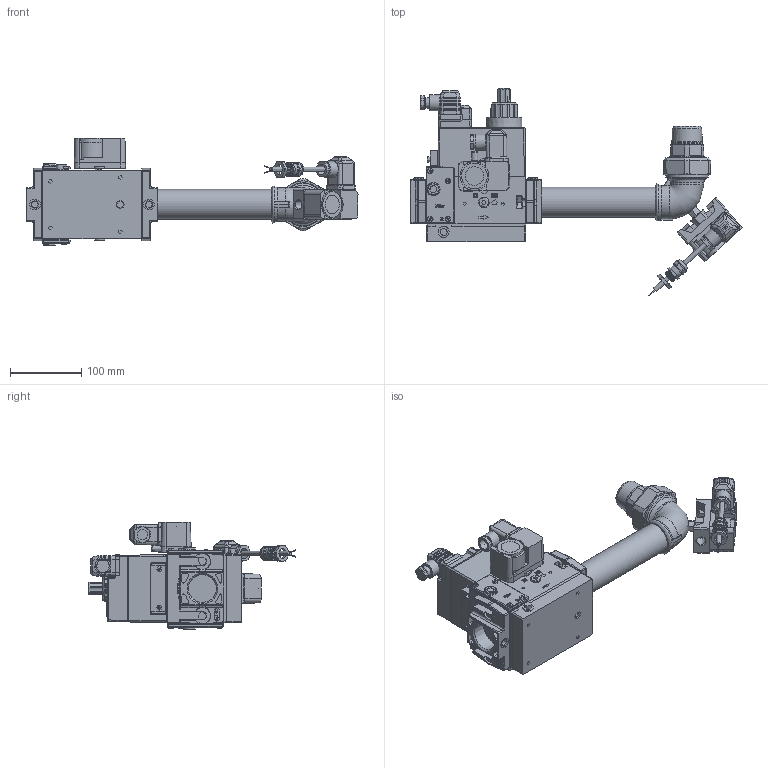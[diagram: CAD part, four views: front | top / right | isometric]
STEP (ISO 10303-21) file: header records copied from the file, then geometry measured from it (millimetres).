
FILE_DESCRIPTION (( 'STEP AP214' ), '1' );
FILE_NAME ('19990748.STEP', '2025-02-14T07:04:13', ( '' ), ( '' ), 'SwSTEP 2.0', 'SolidWorks 2021', '' );
FILE_SCHEMA (( 'AUTOMOTIVE_DESIGN' ));
Length unit declared in the file: millimetre
Products named in the file (1): 19990748
Bounding box: 465.71 x 290.97 x 150.2 mm (x, y, z)
Surface area: 365699.1 mm2 (no closed solid volume)
Topology: 0 solids, 22 shells, 3675 faces, 9276 edges, 5873 vertices
Faces by surface type: plane 1757, bspline 854, cylinder 759, cone 159, torus 135, sphere 11
Full cylindrical faces by diameter (mm): 1 x2, 2 x2, 2.459 x1, 2.5 x2, 3 x1, 4 x4, 4.5 x3, 4.8 x1, 6.2 x1, 7 x6, 8 x6, 8.08 x1, 8.8 x1, 9 x2, 9.139 x1, 9.73 x1, 10.6 x1, 11 x1, 12.5 x2, 13 x1, 13.16 x1, 14 x3, 15 x12, 15.2 x1, 15.833 x1, 15.863 x1, 16 x4, 16.964 x1, 18 x2, 19 x2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
Entity records: 193957 total; most frequent: CARTESIAN_POINT 74216, ORIENTED_EDGE 17787, DIRECTION 13243, EDGE_CURVE 8901, VERTEX_POINT 5775, LINE 4819, VECTOR 4819, AXIS2_PLACEMENT_3D 4212
